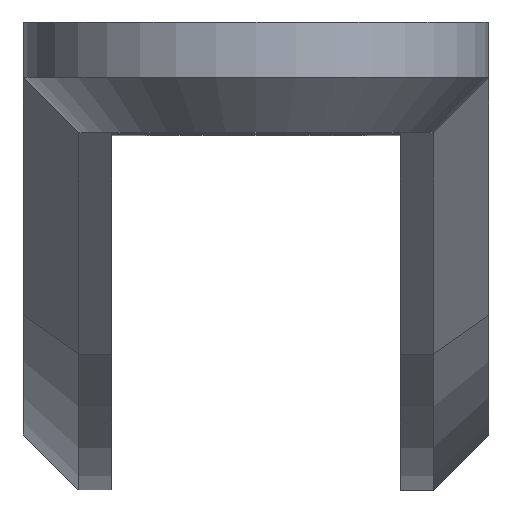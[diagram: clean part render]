
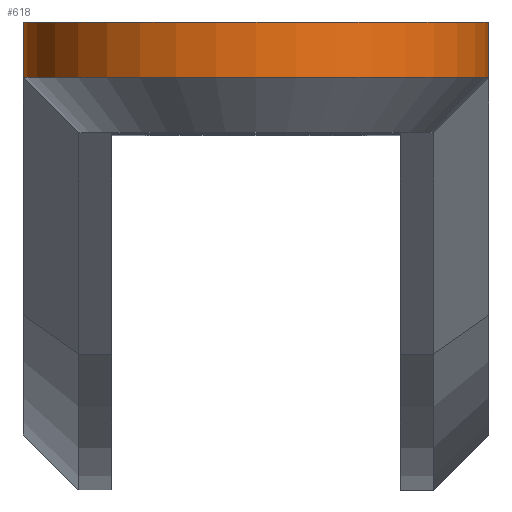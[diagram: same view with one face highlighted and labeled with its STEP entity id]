
A CAD part, top view. The second image highlights one B-rep face of the part: STEP entity #618.
In plain terms, the highlighted cylindrical face has radius 8.45 mm (diameter 16.9 mm), a partial arc.
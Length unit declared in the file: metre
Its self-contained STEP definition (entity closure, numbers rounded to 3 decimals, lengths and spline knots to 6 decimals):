
#45=LINE('',#977,#111);
#46=LINE('',#982,#112);
#111=VECTOR('',#781,1.);
#112=VECTOR('',#784,1.);
#213=ORIENTED_EDGE('',*,*,#381,.F.);
#214=ORIENTED_EDGE('',*,*,#382,.T.);
#215=ORIENTED_EDGE('',*,*,#383,.T.);
#216=ORIENTED_EDGE('',*,*,#384,.F.);
#381=EDGE_CURVE('',#463,#464,#45,.T.);
#382=EDGE_CURVE('',#463,#465,#496,.F.);
#383=EDGE_CURVE('',#465,#466,#46,.T.);
#384=EDGE_CURVE('',#464,#466,#497,.T.);
#463=VERTEX_POINT('',#978);
#464=VERTEX_POINT('',#979);
#465=VERTEX_POINT('',#981);
#466=VERTEX_POINT('',#983);
#496=CIRCLE('',#678,0.00845);
#497=CIRCLE('',#679,0.00845);
#518=EDGE_LOOP('',(#213,#214,#215,#216));
#566=FACE_BOUND('',#518,.T.);
#605=CYLINDRICAL_SURFACE('',#677,0.00845);
#618=ADVANCED_FACE('',(#566),#605,.T.);
#677=AXIS2_PLACEMENT_3D('',#976,#779,#780);
#678=AXIS2_PLACEMENT_3D('',#980,#782,#783);
#679=AXIS2_PLACEMENT_3D('',#984,#785,#786);
#779=DIRECTION('',(0.,1.,0.));
#780=DIRECTION('',(0.,0.,1.));
#781=DIRECTION('',(0.,1.,0.));
#782=DIRECTION('',(0.,-1.,0.));
#783=DIRECTION('',(0.,0.,-1.));
#784=DIRECTION('',(0.,1.,0.));
#785=DIRECTION('',(0.,1.,0.));
#786=DIRECTION('',(0.,0.,-1.));
#976=CARTESIAN_POINT('',(0.,-0.004,0.030125));
#977=CARTESIAN_POINT('',(-0.00845,-0.004,0.030125));
#978=CARTESIAN_POINT('',(-0.00845,-0.002,0.030125));
#979=CARTESIAN_POINT('',(-0.00845,0.,0.030125));
#980=CARTESIAN_POINT('',(0.,-0.002,0.030125));
#981=CARTESIAN_POINT('',(0.00845,-0.002,0.030125));
#982=CARTESIAN_POINT('',(0.00845,-0.004,0.030125));
#983=CARTESIAN_POINT('',(0.00845,0.,0.030125));
#984=CARTESIAN_POINT('',(0.,0.,0.030125));
